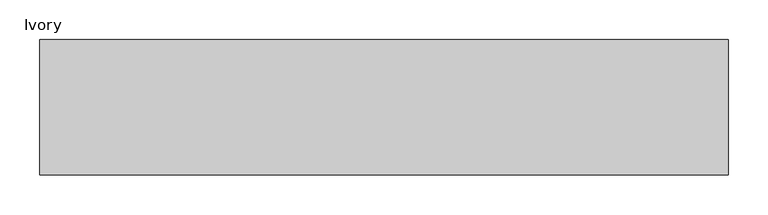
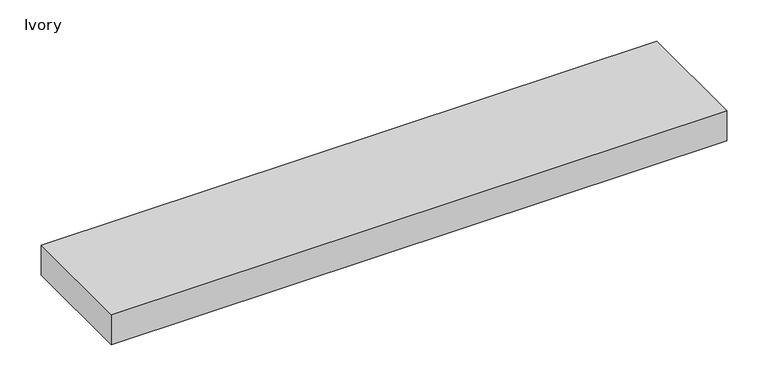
"""IFC4 building model written with IfcOpenShell, lengths in millimetres: proxy geometry, Raceway-5500_Series-Wiremold-Multi_Channel : Ivory."""

from ifc_helpers import new_model, si_unit, origin, origin_with_axes, place, context, project, spatial, polyline, outline, extrude, source, transform, mapped, element, save


def ivory_43a2051e(model_context):
    return source(origin(), model_context, "Body", "SweptSolid", [
        extrude(outline(polyline([(863.6, 84.9376), (863.6, -84.9376), (0.0, -84.9376), (0.0, 84.9376), (863.6, 84.9376)])), origin_with_axes(), (0.0, 0.0, 1.0), 44.45),
    ])


if __name__ == "__main__":
    model = new_model("IFC4")
    model_context = context("Model", 3, world=origin())
    ifc_project = project(units=[si_unit("LENGTHUNIT", "METRE", prefix="MILLI")], contexts=[model_context])
    site = spatial("IfcSite", under=ifc_project)
    building = spatial("IfcBuilding", under=site)
    placement = place(None, origin())
    ivory_shape = ivory_43a2051e(model_context)
    element("IfcBuildingElementProxy", 1, Name="Raceway-5500_Series-Wiremold-Multi_Channel : Ivory", ObjectType="Raceway-5500_Series-Wiremold-Multi_Channel : Ivory", at=placement, inside=building, context=model_context, shape_type="MappedRepresentation", body=[
        mapped(ivory_shape, transform((0.0, 0.0, 0.0), x_axis=(1.0, 0.0, 0.0), y_axis=(0.0, 1.0, 0.0), z_axis=(0.0, 0.0, 1.0))),
    ])
    save(model, "model.ifc")
